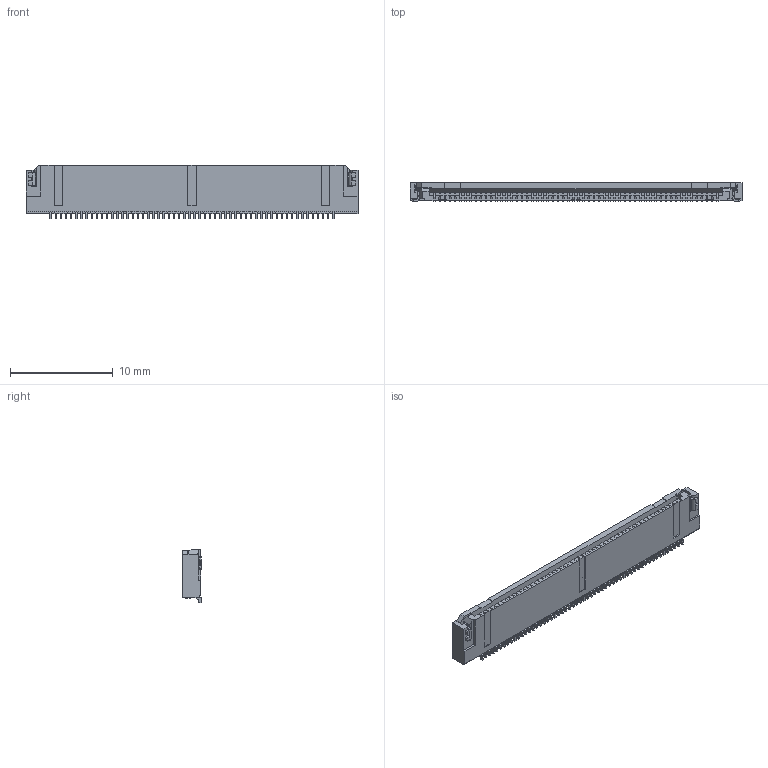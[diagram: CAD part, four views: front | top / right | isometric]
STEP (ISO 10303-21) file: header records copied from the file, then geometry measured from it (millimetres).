
FILE_DESCRIPTION(/* description */ ('Unknown'),/* implementation_level */ '2;1');
FILE_NAME(/* name */ 's-52565-056xx-vxx',/* time_stamp */ '2024-11-15T14:44:28+08:00',/* author */ ('Unknown'),/* organization */ ('Unknown'),/* preprocessor_version */ 'ST-DEVELOPER v16.7',/* originating_system */ 'DEX',/* authorisation */ $);
FILE_SCHEMA (('AUTOMOTIVE_DESIGN {1 0 10303 214 3 1 1}'));
Products named in the file (2): s-52565-056xx-vxx; PRT0002
Assembly tree (1 placements, depth 2):
  s-52565-056xx-vxx
    PRT0002
Bounding box: 32.3 x 1.84 x 5.2 mm (x, y, z)
Volume: 163.7 mm3; surface area: 1128.7 mm2
Topology: 2 solids, 2 shells, 3613 faces, 11375 edges, 7886 vertices
Faces by surface type: plane 2553, cylinder 1056, torus 4
Full cylindrical faces by diameter (mm): 0.5 x2
Entity records: 150012 total; most frequent: CARTESIAN_POINT 23046, ORIENTED_EDGE 22274, DIRECTION 20659, EDGE_CURVE 11137, LINE 8969, VECTOR 8969, VERTEX_POINT 7420, AXIS2_PLACEMENT_3D 5845
